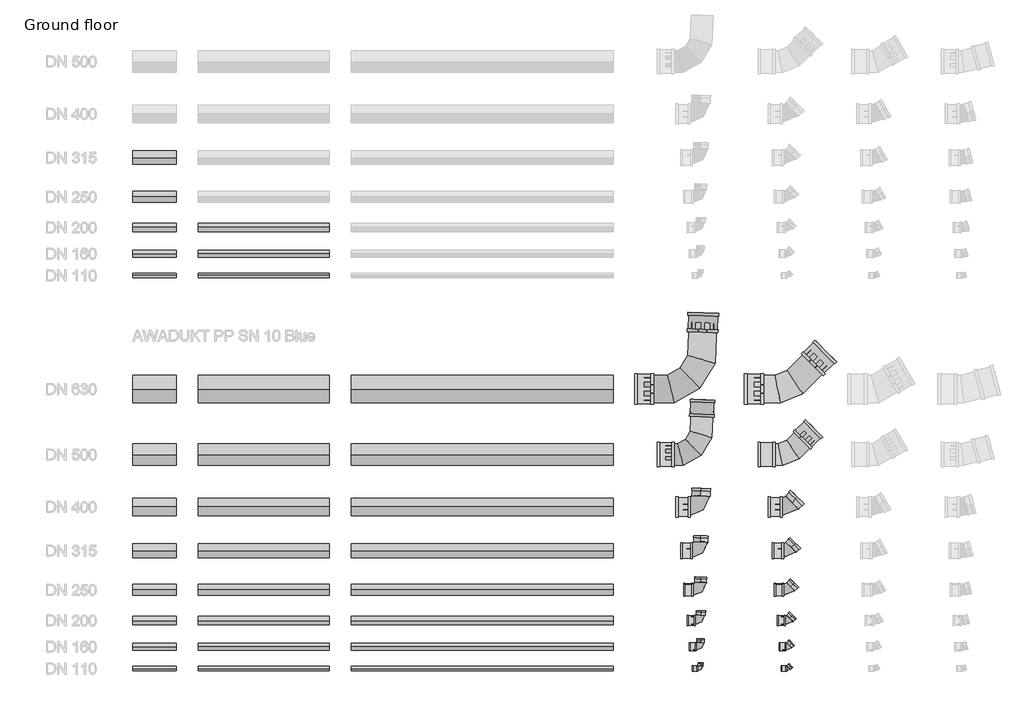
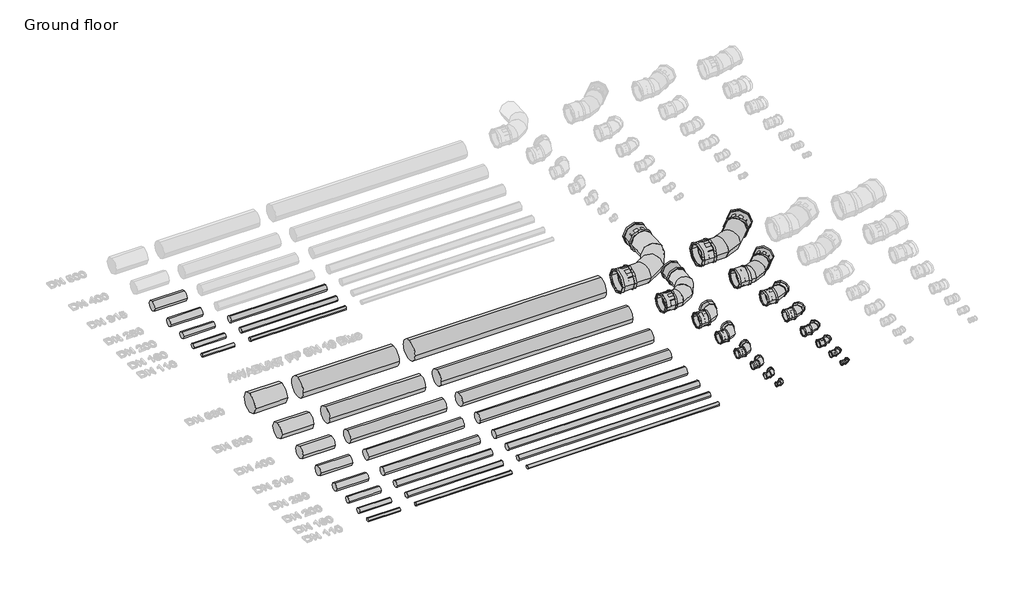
# One storey, part 1 of 10: 36 pipe fittings, 32 pipe segments.
"""IFC4 building model written with IfcOpenShell, lengths in millimetres."""

from ifc_helpers import new_model, si_unit, point, frame, frame_2d, origin, origin_2d, place, context, project, spatial, circle_curve, trimmed, segment, composite_curve, outline, extrude, transform, mapped, element, save
from components import pipe_fitting_366f8f33, pipe_fitting_0ebad727, pipe_fitting_3dc9645f, pipe_fitting_b5a722ff, pipe_fitting_a818c1c7, pipe_fitting_e5a81f0f, pipe_fitting_9bc79c39, pipe_fitting_2c23b5e5, blue_8a6e1d2f, blue_626d8923, blue_a2c14ece, blue_55e6ac91, blue_4c46b765, blue_4c692024, blue_db9835d6, blue_7109e013, blue_6a90c062, blue_68ca3d6e, blue_9c2ccc73, blue_e60a5e92, blue_be0330f0, blue_2595d2eb, blue_0398ec3c, blue_563d0c32

model = new_model("IFC4")

# Units and contexts
model_context = context("Model", 3, world=origin())
ifc_project = project(units=[si_unit("LENGTHUNIT", "METRE", prefix="MILLI")], contexts=[model_context])

# Site, building, storey
site = spatial("IfcSite", under=ifc_project)
building = spatial("IfcBuilding", under=site)
storey = spatial("IfcBuildingStorey", under=building, Name="Ground floor", Elevation=0.0)

# Pipe fittings
placement = place(None, origin())
pipe_fitting_shape = pipe_fitting_366f8f33(model_context)
element("IfcPipeFitting", 1, ObjectType="AWADUKT PP Union DSM : Blue No PID", at=placement, inside=storey, context=model_context, shape_type="MappedRepresentation", body=[
    mapped(pipe_fitting_shape, transform((13055.6434717, 7917.480166, 0.0), x_axis=(0.036643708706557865, 0.9993283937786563, 0.0), y_axis=(-0.9993283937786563, 0.036643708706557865, 0.0), z_axis=(0.0, 0.0, 1.0))),
])
element("IfcPipeFitting", 2, ObjectType="AWADUKT PP Union DSM : Blue No PID", at=placement, inside=storey, context=model_context, shape_type="MappedRepresentation", body=[
    mapped(pipe_fitting_shape, transform((11705.5, 6400.0, 0.0), x_axis=(1.0, 0.0, 0.0), y_axis=(0.0, 1.0, 0.0), z_axis=(0.0, 0.0, 1.0))),
])
element("IfcPipeFitting", 3, ObjectType="AWADUKT PP Union DSM : Blue No PID", at=placement, inside=storey, context=model_context, shape_type="MappedRepresentation", body=[
    mapped(pipe_fitting_shape, transform((15709.9352083, 7109.9352083, 0.0), x_axis=(0.7071067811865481, 0.707106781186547, 0.0), y_axis=(-0.707106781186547, 0.7071067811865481, 0.0), z_axis=(0.0, 0.0, 1.0))),
])
element("IfcPipeFitting", 4, ObjectType="AWADUKT PP Union DSM : Blue No PID", at=placement, inside=storey, context=model_context, shape_type="MappedRepresentation", body=[
    mapped(pipe_fitting_shape, transform((14220.0, 6400.0, 0.0), x_axis=(1.0, 0.0, 0.0), y_axis=(0.0, 1.0, 0.0), z_axis=(0.0, 0.0, 1.0))),
])
pipe_fitting_2_shape = pipe_fitting_0ebad727(model_context)
element("IfcPipeFitting", 5, ObjectType="AWADUKT PP Union DSM : Blue No PID", at=placement, inside=storey, context=model_context, shape_type="MappedRepresentation", body=[
    mapped(pipe_fitting_2_shape, transform((12875.0, 0.0, 0.0), x_axis=(1.0, 0.0, 0.0), y_axis=(0.0, 1.0, 0.0), z_axis=(0.0, 0.0, 1.0))),
])
element("IfcPipeFitting", 6, ObjectType="AWADUKT PP Union DSM : Blue No PID", at=placement, inside=storey, context=model_context, shape_type="MappedRepresentation", body=[
    mapped(pipe_fitting_2_shape, transform((14909.0, 0.0, 0.0), x_axis=(1.0, 0.0, 0.0), y_axis=(0.0, 1.0, 0.0), z_axis=(0.0, 0.0, 1.0))),
])
pipe_fitting_3_shape = pipe_fitting_3dc9645f(model_context)
element("IfcPipeFitting", 7, ObjectType="AWADUKT PP Union DSM : Blue No PID", at=placement, inside=storey, context=model_context, shape_type="MappedRepresentation", body=[
    mapped(pipe_fitting_3_shape, transform((12826.0, 500.0, 0.0), x_axis=(1.0, 0.0, 0.0), y_axis=(0.0, 1.0, 0.0), z_axis=(0.0, 0.0, 1.0))),
])
element("IfcPipeFitting", 8, ObjectType="AWADUKT PP Union DSM : Blue No PID", at=placement, inside=storey, context=model_context, shape_type="MappedRepresentation", body=[
    mapped(pipe_fitting_3_shape, transform((14877.0, 500.0, 0.0), x_axis=(1.0, 0.0, 0.0), y_axis=(0.0, 1.0, 0.0), z_axis=(0.0, 0.0, 1.0))),
])
pipe_fitting_4_shape = pipe_fitting_b5a722ff(model_context)
element("IfcPipeFitting", 9, ObjectType="AWADUKT PP Union DSM : Blue No PID", at=placement, inside=storey, context=model_context, shape_type="MappedRepresentation", body=[
    mapped(pipe_fitting_4_shape, transform((12788.5, 1100.0, 0.0), x_axis=(1.0, 0.0, 0.0), y_axis=(0.0, 1.0, 0.0), z_axis=(0.0, 0.0, 1.0))),
])
element("IfcPipeFitting", 10, ObjectType="AWADUKT PP Union DSM : Blue No PID", at=placement, inside=storey, context=model_context, shape_type="MappedRepresentation", body=[
    mapped(pipe_fitting_4_shape, transform((14847.5, 1100.0, 0.0), x_axis=(1.0, 0.0, 0.0), y_axis=(0.0, 1.0, 0.0), z_axis=(0.0, 0.0, 1.0))),
])
pipe_fitting_5_shape = pipe_fitting_a818c1c7(model_context)
element("IfcPipeFitting", 11, ObjectType="AWADUKT PP Union DSM : Blue No PID", at=placement, inside=storey, context=model_context, shape_type="MappedRepresentation", body=[
    mapped(pipe_fitting_5_shape, transform((12722.0, 1800.0, 0.0), x_axis=(1.0, 0.0, 0.0), y_axis=(0.0, 1.0, 0.0), z_axis=(0.0, 0.0, 1.0))),
])
element("IfcPipeFitting", 12, ObjectType="AWADUKT PP Union DSM : Blue No PID", at=placement, inside=storey, context=model_context, shape_type="MappedRepresentation", body=[
    mapped(pipe_fitting_5_shape, transform((14797.0, 1800.0, 0.0), x_axis=(1.0, 0.0, 0.0), y_axis=(0.0, 1.0, 0.0), z_axis=(0.0, 0.0, 1.0))),
])
pipe_fitting_6_shape = pipe_fitting_e5a81f0f(model_context)
element("IfcPipeFitting", 13, ObjectType="AWADUKT PP Union DSM : Blue No PID", at=placement, inside=storey, context=model_context, shape_type="MappedRepresentation", body=[
    mapped(pipe_fitting_6_shape, transform((12677.0, 2700.0, 0.0), x_axis=(1.0, 0.0, 0.0), y_axis=(0.0, 1.0, 0.0), z_axis=(0.0, 0.0, 1.0))),
])
element("IfcPipeFitting", 14, ObjectType="AWADUKT PP Union DSM : Blue No PID", at=placement, inside=storey, context=model_context, shape_type="MappedRepresentation", body=[
    mapped(pipe_fitting_6_shape, transform((14771.0, 2700.0, 0.0), x_axis=(1.0, 0.0, 0.0), y_axis=(0.0, 1.0, 0.0), z_axis=(0.0, 0.0, 1.0))),
])
pipe_fitting_7_shape = pipe_fitting_9bc79c39(model_context)
element("IfcPipeFitting", 15, ObjectType="AWADUKT PP Union DSM : Blue No PID", at=placement, inside=storey, context=model_context, shape_type="MappedRepresentation", body=[
    mapped(pipe_fitting_7_shape, transform((12597.0, 3700.0, 0.0), x_axis=(1.0, 0.0, 0.0), y_axis=(0.0, 1.0, 0.0), z_axis=(0.0, 0.0, 1.0))),
])
element("IfcPipeFitting", 16, ObjectType="AWADUKT PP Union DSM : Blue No PID", at=placement, inside=storey, context=model_context, shape_type="MappedRepresentation", body=[
    mapped(pipe_fitting_7_shape, transform((14709.0, 3700.0, 0.0), x_axis=(1.0, 0.0, 0.0), y_axis=(0.0, 1.0, 0.0), z_axis=(0.0, 0.0, 1.0))),
])
pipe_fitting_8_shape = pipe_fitting_2c23b5e5(model_context)
element("IfcPipeFitting", 17, ObjectType="AWADUKT PP Union DSM : Blue No PID", at=placement, inside=storey, context=model_context, shape_type="MappedRepresentation", body=[
    mapped(pipe_fitting_8_shape, transform((13038.6957564, 5955.2907838, 0.0), x_axis=(0.036643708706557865, 0.9993283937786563, 0.0), y_axis=(-0.9993283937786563, 0.036643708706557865, 0.0), z_axis=(0.0, 0.0, 1.0))),
])
element("IfcPipeFitting", 18, ObjectType="AWADUKT PP Union DSM : Blue No PID", at=placement, inside=storey, context=model_context, shape_type="MappedRepresentation", body=[
    mapped(pipe_fitting_8_shape, transform((12198.0, 4900.0, 0.0), x_axis=(1.0, 0.0, 0.0), y_axis=(0.0, 1.0, 0.0), z_axis=(0.0, 0.0, 1.0))),
])
element("IfcPipeFitting", 19, ObjectType="AWADUKT PP Union DSM : Blue No PID", at=placement, inside=storey, context=model_context, shape_type="MappedRepresentation", body=[
    mapped(pipe_fitting_8_shape, transform((15458.2051942, 5358.2051942, 0.0), x_axis=(0.7071067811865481, 0.707106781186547, 0.0), y_axis=(-0.707106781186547, 0.7071067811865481, 0.0), z_axis=(0.0, 0.0, 1.0))),
])
element("IfcPipeFitting", 20, ObjectType="AWADUKT PP Union DSM : Blue No PID", at=placement, inside=storey, context=model_context, shape_type="MappedRepresentation", body=[
    mapped(pipe_fitting_8_shape, transform((14509.0, 4900.0, 0.0), x_axis=(1.0, 0.0, 0.0), y_axis=(0.0, 1.0, 0.0), z_axis=(0.0, 0.0, 1.0))),
])
blue_shape = blue_8a6e1d2f(model_context)
element("IfcPipeFitting", 21, ObjectType="AWADUKT PP SN10 Bend : Blue", at=placement, inside=storey, context=model_context, shape_type="MappedRepresentation", body=[
    mapped(blue_shape, transform((15000.0, 3700.0, 0.0), x_axis=(1.0, 0.0, 0.0), y_axis=(0.0, 1.0, 0.0), z_axis=(0.0, 0.0, 1.0))),
])
blue_2_shape = blue_626d8923(model_context)
element("IfcPipeFitting", 22, ObjectType="AWADUKT PP SN10 SBend : Blue", at=placement, inside=storey, context=model_context, shape_type="MappedRepresentation", body=[
    mapped(blue_2_shape, transform((13000.0, 4900.0, 0.0), x_axis=(1.0, 0.0, 0.0), y_axis=(0.0, 1.0, 0.0), z_axis=(0.0, 0.0, 1.0))),
])
blue_3_shape = blue_a2c14ece(model_context)
element("IfcPipeFitting", 23, ObjectType="AWADUKT PP SN10 Bend : Blue", at=placement, inside=storey, context=model_context, shape_type="MappedRepresentation", body=[
    mapped(blue_3_shape, transform((13000.0, 0.0, 0.0), x_axis=(1.0, 0.0, 0.0), y_axis=(0.0, 1.0, 0.0), z_axis=(0.0, 0.0, 1.0))),
])
blue_4_shape = blue_55e6ac91(model_context)
element("IfcPipeFitting", 24, ObjectType="AWADUKT PP SN10 Bend : Blue", at=placement, inside=storey, context=model_context, shape_type="MappedRepresentation", body=[
    mapped(blue_4_shape, transform((13000.0, 500.0, 0.0), x_axis=(1.0, 0.0, 0.0), y_axis=(0.0, 1.0, 0.0), z_axis=(0.0, 0.0, 1.0))),
])
blue_5_shape = blue_4c46b765(model_context)
element("IfcPipeFitting", 25, ObjectType="AWADUKT PP SN10 Bend : Blue", at=placement, inside=storey, context=model_context, shape_type="MappedRepresentation", body=[
    mapped(blue_5_shape, transform((13000.0, 1100.0, 0.0), x_axis=(1.0, 0.0, 0.0), y_axis=(0.0, 1.0, 0.0), z_axis=(0.0, 0.0, 1.0))),
])
blue_6_shape = blue_4c692024(model_context)
element("IfcPipeFitting", 26, ObjectType="AWADUKT PP SN10 Bend : Blue", at=placement, inside=storey, context=model_context, shape_type="MappedRepresentation", body=[
    mapped(blue_6_shape, transform((13000.0, 1800.0, 0.0), x_axis=(1.0, 0.0, 0.0), y_axis=(0.0, 1.0, 0.0), z_axis=(0.0, 0.0, 1.0))),
])
blue_7_shape = blue_db9835d6(model_context)
element("IfcPipeFitting", 27, ObjectType="AWADUKT PP SN10 Bend : Blue", at=placement, inside=storey, context=model_context, shape_type="MappedRepresentation", body=[
    mapped(blue_7_shape, transform((13000.0, 2700.0, 0.0), x_axis=(1.0, 0.0, 0.0), y_axis=(0.0, 1.0, 0.0), z_axis=(0.0, 0.0, 1.0))),
])
blue_8_shape = blue_7109e013(model_context)
element("IfcPipeFitting", 28, ObjectType="AWADUKT PP SN10 Bend : Blue", at=placement, inside=storey, context=model_context, shape_type="MappedRepresentation", body=[
    mapped(blue_8_shape, transform((13000.0, 3700.0, 0.0), x_axis=(1.0, 0.0, 0.0), y_axis=(0.0, 1.0, 0.0), z_axis=(0.0, 0.0, 1.0))),
])
blue_9_shape = blue_6a90c062(model_context)
element("IfcPipeFitting", 29, ObjectType="AWADUKT PP SN10 Bend : Blue", at=placement, inside=storey, context=model_context, shape_type="MappedRepresentation", body=[
    mapped(blue_9_shape, transform((15000.0, 0.0, 0.0), x_axis=(1.0, 0.0, 0.0), y_axis=(0.0, 1.0, 0.0), z_axis=(0.0, 0.0, 1.0))),
])
blue_10_shape = blue_68ca3d6e(model_context)
element("IfcPipeFitting", 30, ObjectType="AWADUKT PP SN10 Bend : Blue", at=placement, inside=storey, context=model_context, shape_type="MappedRepresentation", body=[
    mapped(blue_10_shape, transform((15000.0, 500.0, 0.0), x_axis=(1.0, 0.0, 0.0), y_axis=(0.0, 1.0, 0.0), z_axis=(0.0, 0.0, 1.0))),
])
blue_11_shape = blue_9c2ccc73(model_context)
element("IfcPipeFitting", 31, ObjectType="AWADUKT PP SN10 Bend : Blue", at=placement, inside=storey, context=model_context, shape_type="MappedRepresentation", body=[
    mapped(blue_11_shape, transform((15000.0, 1100.0, 0.0), x_axis=(1.0, 0.0, 0.0), y_axis=(0.0, 1.0, 0.0), z_axis=(0.0, 0.0, 1.0))),
])
blue_12_shape = blue_e60a5e92(model_context)
element("IfcPipeFitting", 32, ObjectType="AWADUKT PP SN10 Bend : Blue", at=placement, inside=storey, context=model_context, shape_type="MappedRepresentation", body=[
    mapped(blue_12_shape, transform((15000.0, 1800.0, 0.0), x_axis=(1.0, 0.0, 0.0), y_axis=(0.0, 1.0, 0.0), z_axis=(0.0, 0.0, 1.0))),
])
blue_13_shape = blue_be0330f0(model_context)
element("IfcPipeFitting", 33, ObjectType="AWADUKT PP SN10 Bend : Blue", at=placement, inside=storey, context=model_context, shape_type="MappedRepresentation", body=[
    mapped(blue_13_shape, transform((15000.0, 2700.0, 0.0), x_axis=(1.0, 0.0, 0.0), y_axis=(0.0, 1.0, 0.0), z_axis=(0.0, 0.0, 1.0))),
])
blue_14_shape = blue_2595d2eb(model_context)
element("IfcPipeFitting", 34, ObjectType="AWADUKT PP SN10 SBend : Blue", at=placement, inside=storey, context=model_context, shape_type="MappedRepresentation", body=[
    mapped(blue_14_shape, transform((13000.0, 6400.0, 0.0), x_axis=(1.0, 0.0, 0.0), y_axis=(0.0, 1.0, 0.0), z_axis=(0.0, 0.0, 1.0))),
])
blue_15_shape = blue_0398ec3c(model_context)
element("IfcPipeFitting", 35, ObjectType="AWADUKT PP SN10 SBend : Blue", at=placement, inside=storey, context=model_context, shape_type="MappedRepresentation", body=[
    mapped(blue_15_shape, transform((15000.0, 4900.0, 0.0), x_axis=(1.0, 0.0, 0.0), y_axis=(0.0, 1.0, 0.0), z_axis=(0.0, 0.0, 1.0))),
])
blue_16_shape = blue_563d0c32(model_context)
element("IfcPipeFitting", 36, ObjectType="AWADUKT PP SN10 SBend : Blue", at=placement, inside=storey, context=model_context, shape_type="MappedRepresentation", body=[
    mapped(blue_16_shape, transform((15000.0, 6400.0, 0.0), x_axis=(1.0, 0.0, 0.0), y_axis=(0.0, 1.0, 0.0), z_axis=(0.0, 0.0, 1.0))),
])

# Pipe segments
element("IfcPipeSegment", 37, ObjectType="AWADUKT PP SN10 Blue", at=placement, inside=storey, context=model_context, shape_type="SweptSolid", body=[
    extrude(outline(composite_curve([segment(trimmed(circle_curve(origin_2d(), 55.0), [point((-55.0, 0.0))], [point((0.0, 55.0))], False, "CARTESIAN"), True, "CONTINUOUS"), segment(trimmed(circle_curve(origin_2d(), 55.0), [point((0.0, 55.0))], [point((55.0, 0.0))], False, "CARTESIAN"), True, "CONTINUOUS"), segment(trimmed(circle_curve(origin_2d(), 55.0), [point((55.0, 0.0))], [point((0.0, -55.0))], False, "CARTESIAN"), True, "CONTINUOUS"), segment(trimmed(circle_curve(origin_2d(), 55.0), [point((0.0, -55.0))], [point((-55.0, 0.0))], False, "CARTESIAN"), True, "CONTINUOUS")], self_intersect=False)), frame((0.0, 0.0, 0.0), z_axis=(1.0, 0.0, 0.0), x_axis=(0.0, 1.0, 0.0)), (0.0, 0.0, 1.0), 1000.0),
])
element("IfcPipeSegment", 38, ObjectType="AWADUKT PP SN10 Blue", at=placement, inside=storey, context=model_context, shape_type="SweptSolid", body=[
    extrude(outline(composite_curve([segment(trimmed(circle_curve(origin_2d(), 55.0), [point((-55.0, 0.0))], [point((0.0, 55.0))], False, "CARTESIAN"), True, "CONTINUOUS"), segment(trimmed(circle_curve(origin_2d(), 55.0), [point((0.0, 55.0))], [point((55.0, 0.0))], False, "CARTESIAN"), True, "CONTINUOUS"), segment(trimmed(circle_curve(origin_2d(), 55.0), [point((55.0, 0.0))], [point((0.0, -55.0))], False, "CARTESIAN"), True, "CONTINUOUS"), segment(trimmed(circle_curve(origin_2d(), 55.0), [point((0.0, -55.0))], [point((-55.0, 0.0))], False, "CARTESIAN"), True, "CONTINUOUS")], self_intersect=False)), frame((1500.0, 0.0, 0.0), z_axis=(1.0, 0.0, 0.0), x_axis=(0.0, 1.0, 0.0)), (0.0, 0.0, 1.0), 3000.0),
])
element("IfcPipeSegment", 39, ObjectType="AWADUKT PP SN10 Blue", at=placement, inside=storey, context=model_context, shape_type="SweptSolid", body=[
    extrude(outline(composite_curve([segment(trimmed(circle_curve(origin_2d(), 55.0), [point((-55.0, 0.0))], [point((0.0, 55.0))], False, "CARTESIAN"), True, "CONTINUOUS"), segment(trimmed(circle_curve(origin_2d(), 55.0), [point((0.0, 55.0))], [point((55.0, 0.0))], False, "CARTESIAN"), True, "CONTINUOUS"), segment(trimmed(circle_curve(origin_2d(), 55.0), [point((55.0, 0.0))], [point((0.0, -55.0))], False, "CARTESIAN"), True, "CONTINUOUS"), segment(trimmed(circle_curve(origin_2d(), 55.0), [point((0.0, -55.0))], [point((-55.0, 0.0))], False, "CARTESIAN"), True, "CONTINUOUS")], self_intersect=False)), frame((5000.0, 0.0, 0.0), z_axis=(1.0, 0.0, 0.0), x_axis=(0.0, 1.0, 0.0)), (0.0, 0.0, 1.0), 6000.0),
])
element("IfcPipeSegment", 40, ObjectType="AWADUKT PP SN10 Blue", at=placement, inside=storey, context=model_context, shape_type="SweptSolid", body=[
    extrude(outline(composite_curve([segment(trimmed(circle_curve(frame_2d((500.0, 0.0)), 80.0), [point((420.0, 0.0))], [point((500.0, 80.0))], False, "CARTESIAN"), True, "CONTINUOUS"), segment(trimmed(circle_curve(frame_2d((500.0, 0.0)), 80.0), [point((500.0, 80.0))], [point((580.0, 0.0))], False, "CARTESIAN"), True, "CONTINUOUS"), segment(trimmed(circle_curve(frame_2d((500.0, 0.0)), 80.0), [point((580.0, 0.0))], [point((500.0, -80.0))], False, "CARTESIAN"), True, "CONTINUOUS"), segment(trimmed(circle_curve(frame_2d((500.0, 0.0)), 80.0), [point((500.0, -80.0))], [point((420.0, 0.0))], False, "CARTESIAN"), True, "CONTINUOUS")], self_intersect=False)), frame((0.0, 0.0, 0.0), z_axis=(1.0, 0.0, 0.0), x_axis=(0.0, 1.0, 0.0)), (0.0, 0.0, 1.0), 1000.0),
])
element("IfcPipeSegment", 41, ObjectType="AWADUKT PP SN10 Blue", at=placement, inside=storey, context=model_context, shape_type="SweptSolid", body=[
    extrude(outline(composite_curve([segment(trimmed(circle_curve(frame_2d((500.0, 0.0)), 80.0), [point((420.0, 0.0))], [point((500.0, 80.0))], False, "CARTESIAN"), True, "CONTINUOUS"), segment(trimmed(circle_curve(frame_2d((500.0, 0.0)), 80.0), [point((500.0, 80.0))], [point((580.0, 0.0))], False, "CARTESIAN"), True, "CONTINUOUS"), segment(trimmed(circle_curve(frame_2d((500.0, 0.0)), 80.0), [point((580.0, 0.0))], [point((500.0, -80.0))], False, "CARTESIAN"), True, "CONTINUOUS"), segment(trimmed(circle_curve(frame_2d((500.0, 0.0)), 80.0), [point((500.0, -80.0))], [point((420.0, 0.0))], False, "CARTESIAN"), True, "CONTINUOUS")], self_intersect=False)), frame((1500.0, 0.0, 0.0), z_axis=(1.0, 0.0, 0.0), x_axis=(0.0, 1.0, 0.0)), (0.0, 0.0, 1.0), 3000.0),
])
element("IfcPipeSegment", 42, ObjectType="AWADUKT PP SN10 Blue", at=placement, inside=storey, context=model_context, shape_type="SweptSolid", body=[
    extrude(outline(composite_curve([segment(trimmed(circle_curve(frame_2d((500.0, 0.0)), 80.0), [point((420.0, 0.0))], [point((500.0, 80.0))], False, "CARTESIAN"), True, "CONTINUOUS"), segment(trimmed(circle_curve(frame_2d((500.0, 0.0)), 80.0), [point((500.0, 80.0))], [point((580.0, 0.0))], False, "CARTESIAN"), True, "CONTINUOUS"), segment(trimmed(circle_curve(frame_2d((500.0, 0.0)), 80.0), [point((580.0, 0.0))], [point((500.0, -80.0))], False, "CARTESIAN"), True, "CONTINUOUS"), segment(trimmed(circle_curve(frame_2d((500.0, 0.0)), 80.0), [point((500.0, -80.0))], [point((420.0, 0.0))], False, "CARTESIAN"), True, "CONTINUOUS")], self_intersect=False)), frame((5000.0, 0.0, 0.0), z_axis=(1.0, 0.0, 0.0), x_axis=(0.0, 1.0, 0.0)), (0.0, 0.0, 1.0), 6000.0),
])
element("IfcPipeSegment", 43, ObjectType="AWADUKT PP SN10 Blue", at=placement, inside=storey, context=model_context, shape_type="SweptSolid", body=[
    extrude(outline(composite_curve([segment(trimmed(circle_curve(frame_2d((1100.0, 0.0)), 100.0), [point((1000.0, 0.0))], [point((1100.0, 100.0))], False, "CARTESIAN"), True, "CONTINUOUS"), segment(trimmed(circle_curve(frame_2d((1100.0, 0.0)), 100.0), [point((1100.0, 100.0))], [point((1200.0, 0.0))], False, "CARTESIAN"), True, "CONTINUOUS"), segment(trimmed(circle_curve(frame_2d((1100.0, 0.0)), 100.0), [point((1200.0, 0.0))], [point((1100.0, -100.0))], False, "CARTESIAN"), True, "CONTINUOUS"), segment(trimmed(circle_curve(frame_2d((1100.0, 0.0)), 100.0), [point((1100.0, -100.0))], [point((1000.0, 0.0))], False, "CARTESIAN"), True, "CONTINUOUS")], self_intersect=False)), frame((0.0, 0.0, 0.0), z_axis=(1.0, 0.0, 0.0), x_axis=(0.0, 1.0, 0.0)), (0.0, 0.0, 1.0), 1000.0),
])
element("IfcPipeSegment", 44, ObjectType="AWADUKT PP SN10 Blue", at=placement, inside=storey, context=model_context, shape_type="SweptSolid", body=[
    extrude(outline(composite_curve([segment(trimmed(circle_curve(frame_2d((1100.0, 0.0)), 100.0), [point((1000.0, 0.0))], [point((1100.0, 100.0))], False, "CARTESIAN"), True, "CONTINUOUS"), segment(trimmed(circle_curve(frame_2d((1100.0, 0.0)), 100.0), [point((1100.0, 100.0))], [point((1200.0, 0.0))], False, "CARTESIAN"), True, "CONTINUOUS"), segment(trimmed(circle_curve(frame_2d((1100.0, 0.0)), 100.0), [point((1200.0, 0.0))], [point((1100.0, -100.0))], False, "CARTESIAN"), True, "CONTINUOUS"), segment(trimmed(circle_curve(frame_2d((1100.0, 0.0)), 100.0), [point((1100.0, -100.0))], [point((1000.0, 0.0))], False, "CARTESIAN"), True, "CONTINUOUS")], self_intersect=False)), frame((1500.0, 0.0, 0.0), z_axis=(1.0, 0.0, 0.0), x_axis=(0.0, 1.0, 0.0)), (0.0, 0.0, 1.0), 3000.0),
])
element("IfcPipeSegment", 45, ObjectType="AWADUKT PP SN10 Blue", at=placement, inside=storey, context=model_context, shape_type="SweptSolid", body=[
    extrude(outline(composite_curve([segment(trimmed(circle_curve(frame_2d((1100.0, 0.0)), 100.0), [point((1000.0, 0.0))], [point((1100.0, 100.0))], False, "CARTESIAN"), True, "CONTINUOUS"), segment(trimmed(circle_curve(frame_2d((1100.0, 0.0)), 100.0), [point((1100.0, 100.0))], [point((1200.0, 0.0))], False, "CARTESIAN"), True, "CONTINUOUS"), segment(trimmed(circle_curve(frame_2d((1100.0, 0.0)), 100.0), [point((1200.0, 0.0))], [point((1100.0, -100.0))], False, "CARTESIAN"), True, "CONTINUOUS"), segment(trimmed(circle_curve(frame_2d((1100.0, 0.0)), 100.0), [point((1100.0, -100.0))], [point((1000.0, 0.0))], False, "CARTESIAN"), True, "CONTINUOUS")], self_intersect=False)), frame((5000.0, 0.0, 0.0), z_axis=(1.0, 0.0, 0.0), x_axis=(0.0, 1.0, 0.0)), (0.0, 0.0, 1.0), 6000.0),
])
element("IfcPipeSegment", 46, ObjectType="AWADUKT PP SN10 Blue", at=placement, inside=storey, context=model_context, shape_type="SweptSolid", body=[
    extrude(outline(composite_curve([segment(trimmed(circle_curve(frame_2d((1800.0, 0.0)), 125.0), [point((1675.0, 0.0))], [point((1800.0, 125.0))], False, "CARTESIAN"), True, "CONTINUOUS"), segment(trimmed(circle_curve(frame_2d((1800.0, 0.0)), 125.0), [point((1800.0, 125.0))], [point((1925.0, 0.0))], False, "CARTESIAN"), True, "CONTINUOUS"), segment(trimmed(circle_curve(frame_2d((1800.0, 0.0)), 125.0), [point((1925.0, 0.0))], [point((1800.0, -125.0))], False, "CARTESIAN"), True, "CONTINUOUS"), segment(trimmed(circle_curve(frame_2d((1800.0, 0.0)), 125.0), [point((1800.0, -125.0))], [point((1675.0, 0.0))], False, "CARTESIAN"), True, "CONTINUOUS")], self_intersect=False)), frame((0.0, 0.0, 0.0), z_axis=(1.0, 0.0, 0.0), x_axis=(0.0, 1.0, 0.0)), (0.0, 0.0, 1.0), 1000.0),
])
element("IfcPipeSegment", 47, ObjectType="AWADUKT PP SN10 Blue", at=placement, inside=storey, context=model_context, shape_type="SweptSolid", body=[
    extrude(outline(composite_curve([segment(trimmed(circle_curve(frame_2d((1800.0, 0.0)), 125.0), [point((1675.0, 0.0))], [point((1800.0, 125.0))], False, "CARTESIAN"), True, "CONTINUOUS"), segment(trimmed(circle_curve(frame_2d((1800.0, 0.0)), 125.0), [point((1800.0, 125.0))], [point((1925.0, 0.0))], False, "CARTESIAN"), True, "CONTINUOUS"), segment(trimmed(circle_curve(frame_2d((1800.0, 0.0)), 125.0), [point((1925.0, 0.0))], [point((1800.0, -125.0))], False, "CARTESIAN"), True, "CONTINUOUS"), segment(trimmed(circle_curve(frame_2d((1800.0, 0.0)), 125.0), [point((1800.0, -125.0))], [point((1675.0, 0.0))], False, "CARTESIAN"), True, "CONTINUOUS")], self_intersect=False)), frame((1500.0, 0.0, 0.0), z_axis=(1.0, 0.0, 0.0), x_axis=(0.0, 1.0, 0.0)), (0.0, 0.0, 1.0), 3000.0),
])
element("IfcPipeSegment", 48, ObjectType="AWADUKT PP SN10 Blue", at=placement, inside=storey, context=model_context, shape_type="SweptSolid", body=[
    extrude(outline(composite_curve([segment(trimmed(circle_curve(frame_2d((1800.0, 0.0)), 125.0), [point((1675.0, 0.0))], [point((1800.0, 125.0))], False, "CARTESIAN"), True, "CONTINUOUS"), segment(trimmed(circle_curve(frame_2d((1800.0, 0.0)), 125.0), [point((1800.0, 125.0))], [point((1925.0, 0.0))], False, "CARTESIAN"), True, "CONTINUOUS"), segment(trimmed(circle_curve(frame_2d((1800.0, 0.0)), 125.0), [point((1925.0, 0.0))], [point((1800.0, -125.0))], False, "CARTESIAN"), True, "CONTINUOUS"), segment(trimmed(circle_curve(frame_2d((1800.0, 0.0)), 125.0), [point((1800.0, -125.0))], [point((1675.0, 0.0))], False, "CARTESIAN"), True, "CONTINUOUS")], self_intersect=False)), frame((5000.0, 0.0, 0.0), z_axis=(1.0, 0.0, 0.0), x_axis=(0.0, 1.0, 0.0)), (0.0, 0.0, 1.0), 6000.0),
])
element("IfcPipeSegment", 49, ObjectType="AWADUKT PP SN10 Blue", at=placement, inside=storey, context=model_context, shape_type="SweptSolid", body=[
    extrude(outline(composite_curve([segment(trimmed(circle_curve(frame_2d((2700.0, 0.0)), 157.5), [point((2542.5, 0.0))], [point((2700.0, 157.5))], False, "CARTESIAN"), True, "CONTINUOUS"), segment(trimmed(circle_curve(frame_2d((2700.0, 0.0)), 157.5), [point((2700.0, 157.5))], [point((2857.5, 0.0))], False, "CARTESIAN"), True, "CONTINUOUS"), segment(trimmed(circle_curve(frame_2d((2700.0, 0.0)), 157.5), [point((2857.5, 0.0))], [point((2700.0, -157.5))], False, "CARTESIAN"), True, "CONTINUOUS"), segment(trimmed(circle_curve(frame_2d((2700.0, 0.0)), 157.5), [point((2700.0, -157.5))], [point((2542.5, 0.0))], False, "CARTESIAN"), True, "CONTINUOUS")], self_intersect=False)), frame((0.0, 0.0, 0.0), z_axis=(1.0, 0.0, 0.0), x_axis=(0.0, 1.0, 0.0)), (0.0, 0.0, 1.0), 1000.0),
])
element("IfcPipeSegment", 50, ObjectType="AWADUKT PP SN10 Blue", at=placement, inside=storey, context=model_context, shape_type="SweptSolid", body=[
    extrude(outline(composite_curve([segment(trimmed(circle_curve(frame_2d((2700.0, 0.0)), 157.5), [point((2542.5, 0.0))], [point((2700.0, 157.5))], False, "CARTESIAN"), True, "CONTINUOUS"), segment(trimmed(circle_curve(frame_2d((2700.0, 0.0)), 157.5), [point((2700.0, 157.5))], [point((2857.5, 0.0))], False, "CARTESIAN"), True, "CONTINUOUS"), segment(trimmed(circle_curve(frame_2d((2700.0, 0.0)), 157.5), [point((2857.5, 0.0))], [point((2700.0, -157.5))], False, "CARTESIAN"), True, "CONTINUOUS"), segment(trimmed(circle_curve(frame_2d((2700.0, 0.0)), 157.5), [point((2700.0, -157.5))], [point((2542.5, 0.0))], False, "CARTESIAN"), True, "CONTINUOUS")], self_intersect=False)), frame((1500.0, 0.0, 0.0), z_axis=(1.0, 0.0, 0.0), x_axis=(0.0, 1.0, 0.0)), (0.0, 0.0, 1.0), 3000.0),
])
element("IfcPipeSegment", 51, ObjectType="AWADUKT PP SN10 Blue", at=placement, inside=storey, context=model_context, shape_type="SweptSolid", body=[
    extrude(outline(composite_curve([segment(trimmed(circle_curve(frame_2d((2700.0, 0.0)), 157.5), [point((2542.5, 0.0))], [point((2700.0, 157.5))], False, "CARTESIAN"), True, "CONTINUOUS"), segment(trimmed(circle_curve(frame_2d((2700.0, 0.0)), 157.5), [point((2700.0, 157.5))], [point((2857.5, 0.0))], False, "CARTESIAN"), True, "CONTINUOUS"), segment(trimmed(circle_curve(frame_2d((2700.0, 0.0)), 157.5), [point((2857.5, 0.0))], [point((2700.0, -157.5))], False, "CARTESIAN"), True, "CONTINUOUS"), segment(trimmed(circle_curve(frame_2d((2700.0, 0.0)), 157.5), [point((2700.0, -157.5))], [point((2542.5, 0.0))], False, "CARTESIAN"), True, "CONTINUOUS")], self_intersect=False)), frame((5000.0, 0.0, 0.0), z_axis=(1.0, 0.0, 0.0), x_axis=(0.0, 1.0, 0.0)), (0.0, 0.0, 1.0), 6000.0),
])
element("IfcPipeSegment", 52, ObjectType="AWADUKT PP SN10 Blue", at=placement, inside=storey, context=model_context, shape_type="SweptSolid", body=[
    extrude(outline(composite_curve([segment(trimmed(circle_curve(frame_2d((3700.0, 0.0)), 200.0), [point((3500.0, 0.0))], [point((3700.0, 200.0))], False, "CARTESIAN"), True, "CONTINUOUS"), segment(trimmed(circle_curve(frame_2d((3700.0, 0.0)), 200.0), [point((3700.0, 200.0))], [point((3900.0, 0.0))], False, "CARTESIAN"), True, "CONTINUOUS"), segment(trimmed(circle_curve(frame_2d((3700.0, 0.0)), 200.0), [point((3900.0, 0.0))], [point((3700.0, -200.0))], False, "CARTESIAN"), True, "CONTINUOUS"), segment(trimmed(circle_curve(frame_2d((3700.0, 0.0)), 200.0), [point((3700.0, -200.0))], [point((3500.0, 0.0))], False, "CARTESIAN"), True, "CONTINUOUS")], self_intersect=False)), frame((0.0, 0.0, 0.0), z_axis=(1.0, 0.0, 0.0), x_axis=(0.0, 1.0, 0.0)), (0.0, 0.0, 1.0), 1000.0),
])
element("IfcPipeSegment", 53, ObjectType="AWADUKT PP SN10 Blue", at=placement, inside=storey, context=model_context, shape_type="SweptSolid", body=[
    extrude(outline(composite_curve([segment(trimmed(circle_curve(frame_2d((3700.0, 0.0)), 200.0), [point((3500.0, 0.0))], [point((3700.0, 200.0))], False, "CARTESIAN"), True, "CONTINUOUS"), segment(trimmed(circle_curve(frame_2d((3700.0, 0.0)), 200.0), [point((3700.0, 200.0))], [point((3900.0, 0.0))], False, "CARTESIAN"), True, "CONTINUOUS"), segment(trimmed(circle_curve(frame_2d((3700.0, 0.0)), 200.0), [point((3900.0, 0.0))], [point((3700.0, -200.0))], False, "CARTESIAN"), True, "CONTINUOUS"), segment(trimmed(circle_curve(frame_2d((3700.0, 0.0)), 200.0), [point((3700.0, -200.0))], [point((3500.0, 0.0))], False, "CARTESIAN"), True, "CONTINUOUS")], self_intersect=False)), frame((1500.0, 0.0, 0.0), z_axis=(1.0, 0.0, 0.0), x_axis=(0.0, 1.0, 0.0)), (0.0, 0.0, 1.0), 3000.0),
])
element("IfcPipeSegment", 54, ObjectType="AWADUKT PP SN10 Blue", at=placement, inside=storey, context=model_context, shape_type="SweptSolid", body=[
    extrude(outline(composite_curve([segment(trimmed(circle_curve(frame_2d((3700.0, 0.0)), 200.0), [point((3500.0, 0.0))], [point((3700.0, 200.0))], False, "CARTESIAN"), True, "CONTINUOUS"), segment(trimmed(circle_curve(frame_2d((3700.0, 0.0)), 200.0), [point((3700.0, 200.0))], [point((3900.0, 0.0))], False, "CARTESIAN"), True, "CONTINUOUS"), segment(trimmed(circle_curve(frame_2d((3700.0, 0.0)), 200.0), [point((3900.0, 0.0))], [point((3700.0, -200.0))], False, "CARTESIAN"), True, "CONTINUOUS"), segment(trimmed(circle_curve(frame_2d((3700.0, 0.0)), 200.0), [point((3700.0, -200.0))], [point((3500.0, 0.0))], False, "CARTESIAN"), True, "CONTINUOUS")], self_intersect=False)), frame((5000.0, 0.0, 0.0), z_axis=(1.0, 0.0, 0.0), x_axis=(0.0, 1.0, 0.0)), (0.0, 0.0, 1.0), 6000.0),
])
element("IfcPipeSegment", 55, ObjectType="AWADUKT PP SN10 Blue", at=placement, inside=storey, context=model_context, shape_type="SweptSolid", body=[
    extrude(outline(composite_curve([segment(trimmed(circle_curve(frame_2d((4900.0, 0.0)), 250.0), [point((4650.0, 0.0))], [point((4900.0, 250.0))], False, "CARTESIAN"), True, "CONTINUOUS"), segment(trimmed(circle_curve(frame_2d((4900.0, 0.0)), 250.0), [point((4900.0, 250.0))], [point((5150.0, 0.0))], False, "CARTESIAN"), True, "CONTINUOUS"), segment(trimmed(circle_curve(frame_2d((4900.0, 0.0)), 250.0), [point((5150.0, 0.0))], [point((4900.0, -250.0))], False, "CARTESIAN"), True, "CONTINUOUS"), segment(trimmed(circle_curve(frame_2d((4900.0, 0.0)), 250.0), [point((4900.0, -250.0))], [point((4650.0, 0.0))], False, "CARTESIAN"), True, "CONTINUOUS")], self_intersect=False)), frame((0.0, 0.0, 0.0), z_axis=(1.0, 0.0, 0.0), x_axis=(0.0, 1.0, 0.0)), (0.0, 0.0, 1.0), 1000.0),
])
element("IfcPipeSegment", 56, ObjectType="AWADUKT PP SN10 Blue", at=placement, inside=storey, context=model_context, shape_type="SweptSolid", body=[
    extrude(outline(composite_curve([segment(trimmed(circle_curve(frame_2d((4900.0, 0.0)), 250.0), [point((4650.0, 0.0))], [point((4900.0, 250.0))], False, "CARTESIAN"), True, "CONTINUOUS"), segment(trimmed(circle_curve(frame_2d((4900.0, 0.0)), 250.0), [point((4900.0, 250.0))], [point((5150.0, 0.0))], False, "CARTESIAN"), True, "CONTINUOUS"), segment(trimmed(circle_curve(frame_2d((4900.0, 0.0)), 250.0), [point((5150.0, 0.0))], [point((4900.0, -250.0))], False, "CARTESIAN"), True, "CONTINUOUS"), segment(trimmed(circle_curve(frame_2d((4900.0, 0.0)), 250.0), [point((4900.0, -250.0))], [point((4650.0, 0.0))], False, "CARTESIAN"), True, "CONTINUOUS")], self_intersect=False)), frame((1500.0, 0.0, 0.0), z_axis=(1.0, 0.0, 0.0), x_axis=(0.0, 1.0, 0.0)), (0.0, 0.0, 1.0), 3000.0),
])
element("IfcPipeSegment", 57, ObjectType="AWADUKT PP SN10 Blue", at=placement, inside=storey, context=model_context, shape_type="SweptSolid", body=[
    extrude(outline(composite_curve([segment(trimmed(circle_curve(frame_2d((4900.0, 0.0)), 250.0), [point((4650.0, 0.0))], [point((4900.0, 250.0))], False, "CARTESIAN"), True, "CONTINUOUS"), segment(trimmed(circle_curve(frame_2d((4900.0, 0.0)), 250.0), [point((4900.0, 250.0))], [point((5150.0, 0.0))], False, "CARTESIAN"), True, "CONTINUOUS"), segment(trimmed(circle_curve(frame_2d((4900.0, 0.0)), 250.0), [point((5150.0, 0.0))], [point((4900.0, -250.0))], False, "CARTESIAN"), True, "CONTINUOUS"), segment(trimmed(circle_curve(frame_2d((4900.0, 0.0)), 250.0), [point((4900.0, -250.0))], [point((4650.0, 0.0))], False, "CARTESIAN"), True, "CONTINUOUS")], self_intersect=False)), frame((5000.0, 0.0, 0.0), z_axis=(1.0, 0.0, 0.0), x_axis=(0.0, 1.0, 0.0)), (0.0, 0.0, 1.0), 6000.0),
])
element("IfcPipeSegment", 58, ObjectType="AWADUKT PP SN10 Blue", at=placement, inside=storey, context=model_context, shape_type="SweptSolid", body=[
    extrude(outline(composite_curve([segment(trimmed(circle_curve(frame_2d((6400.0, 0.0)), 315.0), [point((6085.0, 0.0))], [point((6400.0, 315.0))], False, "CARTESIAN"), True, "CONTINUOUS"), segment(trimmed(circle_curve(frame_2d((6400.0, 0.0)), 315.0), [point((6400.0, 315.0))], [point((6715.0, 0.0))], False, "CARTESIAN"), True, "CONTINUOUS"), segment(trimmed(circle_curve(frame_2d((6400.0, 0.0)), 315.0), [point((6715.0, 0.0))], [point((6400.0, -315.0))], False, "CARTESIAN"), True, "CONTINUOUS"), segment(trimmed(circle_curve(frame_2d((6400.0, 0.0)), 315.0), [point((6400.0, -315.0))], [point((6085.0, 0.0))], False, "CARTESIAN"), True, "CONTINUOUS")], self_intersect=False)), frame((0.0, 0.0, 0.0), z_axis=(1.0, 0.0, 0.0), x_axis=(0.0, 1.0, 0.0)), (0.0, 0.0, 1.0), 1000.0),
])
element("IfcPipeSegment", 59, ObjectType="AWADUKT PP SN10 Blue", at=placement, inside=storey, context=model_context, shape_type="SweptSolid", body=[
    extrude(outline(composite_curve([segment(trimmed(circle_curve(frame_2d((6400.0, 0.0)), 315.0), [point((6085.0, 0.0))], [point((6400.0, 315.0))], False, "CARTESIAN"), True, "CONTINUOUS"), segment(trimmed(circle_curve(frame_2d((6400.0, 0.0)), 315.0), [point((6400.0, 315.0))], [point((6715.0, 0.0))], False, "CARTESIAN"), True, "CONTINUOUS"), segment(trimmed(circle_curve(frame_2d((6400.0, 0.0)), 315.0), [point((6715.0, 0.0))], [point((6400.0, -315.0))], False, "CARTESIAN"), True, "CONTINUOUS"), segment(trimmed(circle_curve(frame_2d((6400.0, 0.0)), 315.0), [point((6400.0, -315.0))], [point((6085.0, 0.0))], False, "CARTESIAN"), True, "CONTINUOUS")], self_intersect=False)), frame((1500.0, 0.0, 0.0), z_axis=(1.0, 0.0, 0.0), x_axis=(0.0, 1.0, 0.0)), (0.0, 0.0, 1.0), 3000.0),
])
element("IfcPipeSegment", 60, ObjectType="AWADUKT PP SN10 Blue", at=placement, inside=storey, context=model_context, shape_type="SweptSolid", body=[
    extrude(outline(composite_curve([segment(trimmed(circle_curve(frame_2d((6400.0, 0.0)), 315.0), [point((6085.0, 0.0))], [point((6400.0, 315.0))], False, "CARTESIAN"), True, "CONTINUOUS"), segment(trimmed(circle_curve(frame_2d((6400.0, 0.0)), 315.0), [point((6400.0, 315.0))], [point((6715.0, 0.0))], False, "CARTESIAN"), True, "CONTINUOUS"), segment(trimmed(circle_curve(frame_2d((6400.0, 0.0)), 315.0), [point((6715.0, 0.0))], [point((6400.0, -315.0))], False, "CARTESIAN"), True, "CONTINUOUS"), segment(trimmed(circle_curve(frame_2d((6400.0, 0.0)), 315.0), [point((6400.0, -315.0))], [point((6085.0, 0.0))], False, "CARTESIAN"), True, "CONTINUOUS")], self_intersect=False)), frame((5000.0, 0.0, 0.0), z_axis=(1.0, 0.0, 0.0), x_axis=(0.0, 1.0, 0.0)), (0.0, 0.0, 1.0), 6000.0),
])
element("IfcPipeSegment", 61, ObjectType="AWADUKT PP SN10", at=placement, inside=storey, context=model_context, shape_type="SweptSolid", body=[
    extrude(outline(composite_curve([segment(trimmed(circle_curve(frame_2d((9000.0, 0.0)), 55.0), [point((8945.0, 0.0))], [point((9000.0, 55.0))], False, "CARTESIAN"), True, "CONTINUOUS"), segment(trimmed(circle_curve(frame_2d((9000.0, 0.0)), 55.0), [point((9000.0, 55.0))], [point((9055.0, 0.0))], False, "CARTESIAN"), True, "CONTINUOUS"), segment(trimmed(circle_curve(frame_2d((9000.0, 0.0)), 55.0), [point((9055.0, 0.0))], [point((9000.0, -55.0))], False, "CARTESIAN"), True, "CONTINUOUS"), segment(trimmed(circle_curve(frame_2d((9000.0, 0.0)), 55.0), [point((9000.0, -55.0))], [point((8945.0, 0.0))], False, "CARTESIAN"), True, "CONTINUOUS")], self_intersect=False)), frame((0.0, 0.0, 0.0), z_axis=(1.0, 0.0, 0.0), x_axis=(0.0, 1.0, 0.0)), (0.0, 0.0, 1.0), 1000.0),
])
element("IfcPipeSegment", 62, ObjectType="AWADUKT PP SN10", at=placement, inside=storey, context=model_context, shape_type="SweptSolid", body=[
    extrude(outline(composite_curve([segment(trimmed(circle_curve(frame_2d((9000.0, 0.0)), 55.0), [point((8945.0, 0.0))], [point((9000.0, 55.0))], False, "CARTESIAN"), True, "CONTINUOUS"), segment(trimmed(circle_curve(frame_2d((9000.0, 0.0)), 55.0), [point((9000.0, 55.0))], [point((9055.0, 0.0))], False, "CARTESIAN"), True, "CONTINUOUS"), segment(trimmed(circle_curve(frame_2d((9000.0, 0.0)), 55.0), [point((9055.0, 0.0))], [point((9000.0, -55.0))], False, "CARTESIAN"), True, "CONTINUOUS"), segment(trimmed(circle_curve(frame_2d((9000.0, 0.0)), 55.0), [point((9000.0, -55.0))], [point((8945.0, 0.0))], False, "CARTESIAN"), True, "CONTINUOUS")], self_intersect=False)), frame((1500.0, 0.0, 0.0), z_axis=(1.0, 0.0, 0.0), x_axis=(0.0, 1.0, 0.0)), (0.0, 0.0, 1.0), 3000.0),
])
element("IfcPipeSegment", 63, ObjectType="AWADUKT PP SN10", at=placement, inside=storey, context=model_context, shape_type="SweptSolid", body=[
    extrude(outline(composite_curve([segment(trimmed(circle_curve(frame_2d((9500.0, 0.0)), 80.0), [point((9420.0, 0.0))], [point((9500.0, 80.0))], False, "CARTESIAN"), True, "CONTINUOUS"), segment(trimmed(circle_curve(frame_2d((9500.0, 0.0)), 80.0), [point((9500.0, 80.0))], [point((9580.0, 0.0))], False, "CARTESIAN"), True, "CONTINUOUS"), segment(trimmed(circle_curve(frame_2d((9500.0, 0.0)), 80.0), [point((9580.0, 0.0))], [point((9500.0, -80.0))], False, "CARTESIAN"), True, "CONTINUOUS"), segment(trimmed(circle_curve(frame_2d((9500.0, 0.0)), 80.0), [point((9500.0, -80.0))], [point((9420.0, 0.0))], False, "CARTESIAN"), True, "CONTINUOUS")], self_intersect=False)), frame((0.0, 0.0, 0.0), z_axis=(1.0, 0.0, 0.0), x_axis=(0.0, 1.0, 0.0)), (0.0, 0.0, 1.0), 1000.0),
])
element("IfcPipeSegment", 64, ObjectType="AWADUKT PP SN10", at=placement, inside=storey, context=model_context, shape_type="SweptSolid", body=[
    extrude(outline(composite_curve([segment(trimmed(circle_curve(frame_2d((9500.0, 0.0)), 80.0), [point((9420.0, 0.0))], [point((9500.0, 80.0))], False, "CARTESIAN"), True, "CONTINUOUS"), segment(trimmed(circle_curve(frame_2d((9500.0, 0.0)), 80.0), [point((9500.0, 80.0))], [point((9580.0, 0.0))], False, "CARTESIAN"), True, "CONTINUOUS"), segment(trimmed(circle_curve(frame_2d((9500.0, 0.0)), 80.0), [point((9580.0, 0.0))], [point((9500.0, -80.0))], False, "CARTESIAN"), True, "CONTINUOUS"), segment(trimmed(circle_curve(frame_2d((9500.0, 0.0)), 80.0), [point((9500.0, -80.0))], [point((9420.0, 0.0))], False, "CARTESIAN"), True, "CONTINUOUS")], self_intersect=False)), frame((1500.0, 0.0, 0.0), z_axis=(1.0, 0.0, 0.0), x_axis=(0.0, 1.0, 0.0)), (0.0, 0.0, 1.0), 3000.0),
])
element("IfcPipeSegment", 65, ObjectType="AWADUKT PP SN10", at=placement, inside=storey, context=model_context, shape_type="SweptSolid", body=[
    extrude(outline(composite_curve([segment(trimmed(circle_curve(frame_2d((10100.0, 0.0)), 100.0), [point((10000.0, 0.0))], [point((10100.0, 100.0))], False, "CARTESIAN"), True, "CONTINUOUS"), segment(trimmed(circle_curve(frame_2d((10100.0, 0.0)), 100.0), [point((10100.0, 100.0))], [point((10200.0, 0.0))], False, "CARTESIAN"), True, "CONTINUOUS"), segment(trimmed(circle_curve(frame_2d((10100.0, 0.0)), 100.0), [point((10200.0, 0.0))], [point((10100.0, -100.0))], False, "CARTESIAN"), True, "CONTINUOUS"), segment(trimmed(circle_curve(frame_2d((10100.0, 0.0)), 100.0), [point((10100.0, -100.0))], [point((10000.0, 0.0))], False, "CARTESIAN"), True, "CONTINUOUS")], self_intersect=False)), frame((0.0, 0.0, 0.0), z_axis=(1.0, 0.0, 0.0), x_axis=(0.0, 1.0, 0.0)), (0.0, 0.0, 1.0), 1000.0),
])
element("IfcPipeSegment", 66, ObjectType="AWADUKT PP SN10", at=placement, inside=storey, context=model_context, shape_type="SweptSolid", body=[
    extrude(outline(composite_curve([segment(trimmed(circle_curve(frame_2d((10100.0, 0.0)), 100.0), [point((10000.0, 0.0))], [point((10100.0, 100.0))], False, "CARTESIAN"), True, "CONTINUOUS"), segment(trimmed(circle_curve(frame_2d((10100.0, 0.0)), 100.0), [point((10100.0, 100.0))], [point((10200.0, 0.0))], False, "CARTESIAN"), True, "CONTINUOUS"), segment(trimmed(circle_curve(frame_2d((10100.0, 0.0)), 100.0), [point((10200.0, 0.0))], [point((10100.0, -100.0))], False, "CARTESIAN"), True, "CONTINUOUS"), segment(trimmed(circle_curve(frame_2d((10100.0, 0.0)), 100.0), [point((10100.0, -100.0))], [point((10000.0, 0.0))], False, "CARTESIAN"), True, "CONTINUOUS")], self_intersect=False)), frame((1500.0, 0.0, 0.0), z_axis=(1.0, 0.0, 0.0), x_axis=(0.0, 1.0, 0.0)), (0.0, 0.0, 1.0), 3000.0),
])
element("IfcPipeSegment", 67, ObjectType="AWADUKT PP SN10", at=placement, inside=storey, context=model_context, shape_type="SweptSolid", body=[
    extrude(outline(composite_curve([segment(trimmed(circle_curve(frame_2d((10800.0, 0.0)), 125.0), [point((10675.0, 0.0))], [point((10800.0, 125.0))], False, "CARTESIAN"), True, "CONTINUOUS"), segment(trimmed(circle_curve(frame_2d((10800.0, 0.0)), 125.0), [point((10800.0, 125.0))], [point((10925.0, 0.0))], False, "CARTESIAN"), True, "CONTINUOUS"), segment(trimmed(circle_curve(frame_2d((10800.0, 0.0)), 125.0), [point((10925.0, 0.0))], [point((10800.0, -125.0))], False, "CARTESIAN"), True, "CONTINUOUS"), segment(trimmed(circle_curve(frame_2d((10800.0, 0.0)), 125.0), [point((10800.0, -125.0))], [point((10675.0, 0.0))], False, "CARTESIAN"), True, "CONTINUOUS")], self_intersect=False)), frame((0.0, 0.0, 0.0), z_axis=(1.0, 0.0, 0.0), x_axis=(0.0, 1.0, 0.0)), (0.0, 0.0, 1.0), 1000.0),
])
element("IfcPipeSegment", 68, ObjectType="AWADUKT PP SN10", at=placement, inside=storey, context=model_context, shape_type="SweptSolid", body=[
    extrude(outline(composite_curve([segment(trimmed(circle_curve(frame_2d((11700.0, 0.0)), 157.5), [point((11542.5, 0.0))], [point((11700.0, 157.5))], False, "CARTESIAN"), True, "CONTINUOUS"), segment(trimmed(circle_curve(frame_2d((11700.0, 0.0)), 157.5), [point((11700.0, 157.5))], [point((11857.5, 0.0))], False, "CARTESIAN"), True, "CONTINUOUS"), segment(trimmed(circle_curve(frame_2d((11700.0, 0.0)), 157.5), [point((11857.5, 0.0))], [point((11700.0, -157.5))], False, "CARTESIAN"), True, "CONTINUOUS"), segment(trimmed(circle_curve(frame_2d((11700.0, 0.0)), 157.5), [point((11700.0, -157.5))], [point((11542.5, 0.0))], False, "CARTESIAN"), True, "CONTINUOUS")], self_intersect=False)), frame((0.0, 0.0, 0.0), z_axis=(1.0, 0.0, 0.0), x_axis=(0.0, 1.0, 0.0)), (0.0, 0.0, 1.0), 1000.0),
])

save(model, "model.ifc")
